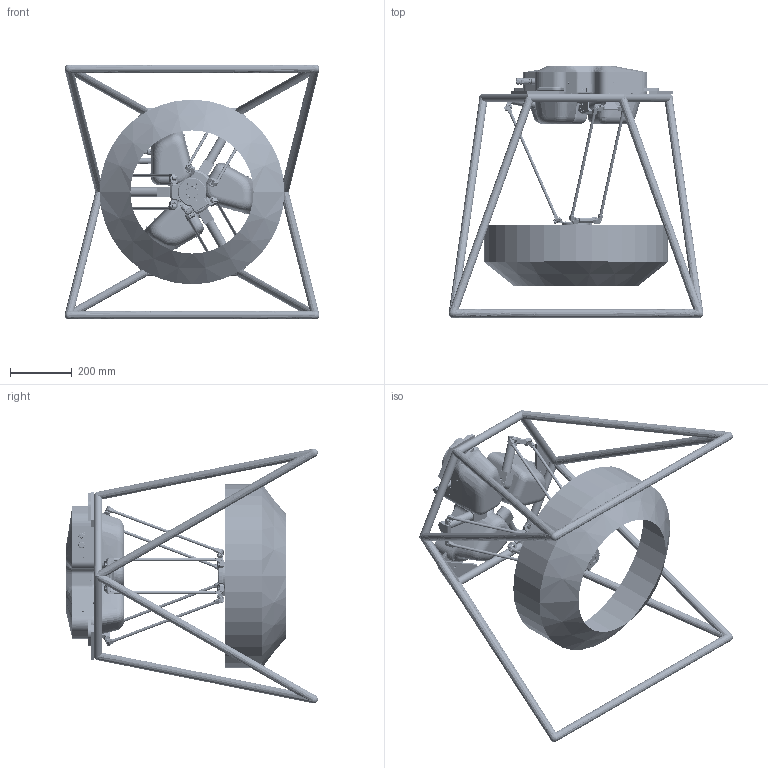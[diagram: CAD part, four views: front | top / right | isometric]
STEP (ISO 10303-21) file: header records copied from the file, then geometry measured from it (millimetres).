
FILE_DESCRIPTION((''),'2;1');
FILE_NAME('ZRC-0306N_FRAME_WORKING_AREA_ASM','2022-05-11T16:27:23',('SonJeongWon'),(''),'CREO PARAMETRIC BY PTC INC, 2020354','CREO PARAMETRIC BY PTC INC, 2020354','');
FILE_SCHEMA(('CONFIG_CONTROL_DESIGN'));
Length unit declared in the file: millimetre
Products named in the file (5): ZRC-0306N_STP; M9030801; M9030901; A9005401_ASM; ZRC-0306N_FRAME_WORKING_AREA_ASM
Assembly tree (6 placements, depth 3):
  ZRC-0306N_FRAME_WORKING_AREA_ASM
    ZRC-0306N_STP
    A9005401_ASM
      M9030801
      M9030901  x3
Bounding box: 827.11 x 817.2 x 827.2 mm (x, y, z)
Volume: 4797737.5 mm3; surface area: 3310110.7 mm2
Topology: 20 solids, 40 shells, 6914 faces, 17553 edges, 10732 vertices
Faces by surface type: plane 3160, cylinder 1671, cone 1124, bspline 614, torus 305, extrusion 19, sphere 19, revolution 2
Entity records: 375363 total; most frequent: CARTESIAN_POINT 215846, ORIENTED_EDGE 34584, DIRECTION 31219, EDGE_CURVE 17298, AXIS2_PLACEMENT_3D 11486, VERTEX_POINT 10671, VECTOR 8245, LINE 8226
